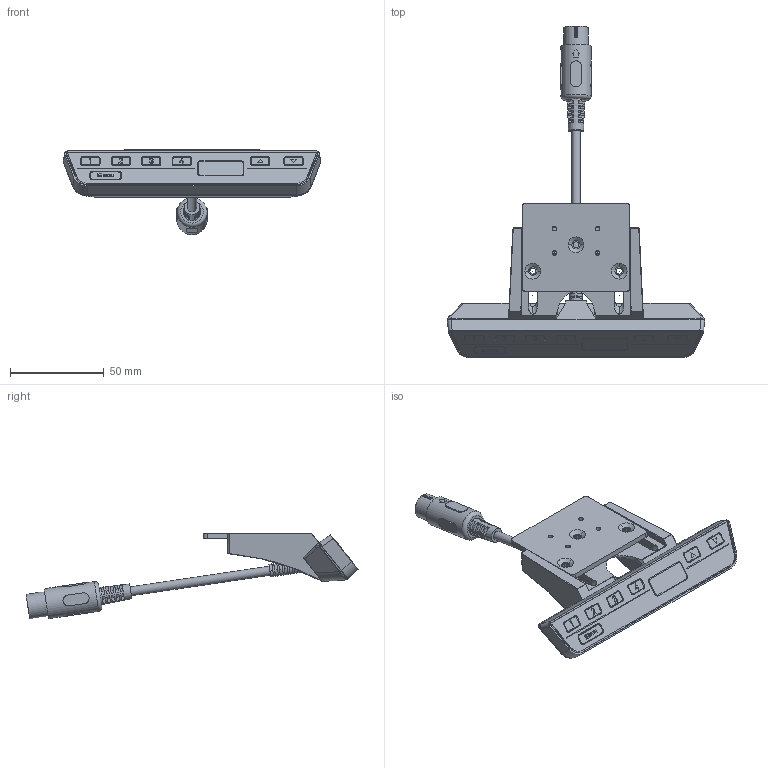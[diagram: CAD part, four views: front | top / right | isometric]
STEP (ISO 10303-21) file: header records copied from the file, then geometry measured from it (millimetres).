
FILE_DESCRIPTION(/* description */ ('Unknown','CAx-IF Rec.Pracs.---Representation and Presentation of Product Manufacturing Information (PMI)---4.0---2014-10-13','CAx-IF Rec.Pracs.---3D Tessellated Geometry---0.4---2014-09-14','2;1'),/* implementation_level */ '2;1');
FILE_NAME(/* name */ '124.00223_00-Ausgefahren',/* time_stamp */ '2022-08-22T16:39:31+02:00',/* author */ ('Unknown'),/* organization */ ('Unknown'),/* preprocessor_version */ 'ST-DEVELOPER v18.102',/* originating_system */ 'Solid Edge',/* authorisation */ 'Unknown');
FILE_SCHEMA (('AP242_MANAGED_MODEL_BASED_3D_ENGINEERING_MIM_LF { 1 0 10303 442 1 1 4 }'));
Length unit declared in the file: millimetre
Products named in the file (3): 124.00223; Handtaster_00; Schiebeplatte_00
Assembly tree (2 placements, depth 2):
  124.00223
    Handtaster_00
    Schiebeplatte_00
Bounding box: 137.22 x 177.06 x 45.8 mm (x, y, z)
Volume: 50793 mm3; surface area: 52701.1 mm2
Topology: 13 solids, 13 shells, 1180 faces, 3082 edges, 2008 vertices
Faces by surface type: plane 482, cylinder 388, torus 192, cone 81, bspline 27, sphere 10
Full cylindrical faces by diameter (mm): 0.05 x4, 1.5 x7, 4.8 x2, 13.3 x1, 16 x1
Entity records: 42999 total; most frequent: CARTESIAN_POINT 11138, ORIENTED_EDGE 6104, DIRECTION 5764, EDGE_CURVE 3052, AXIS2_PLACEMENT_3D 2163, VERTEX_POINT 2005, LINE 1438, VECTOR 1438
